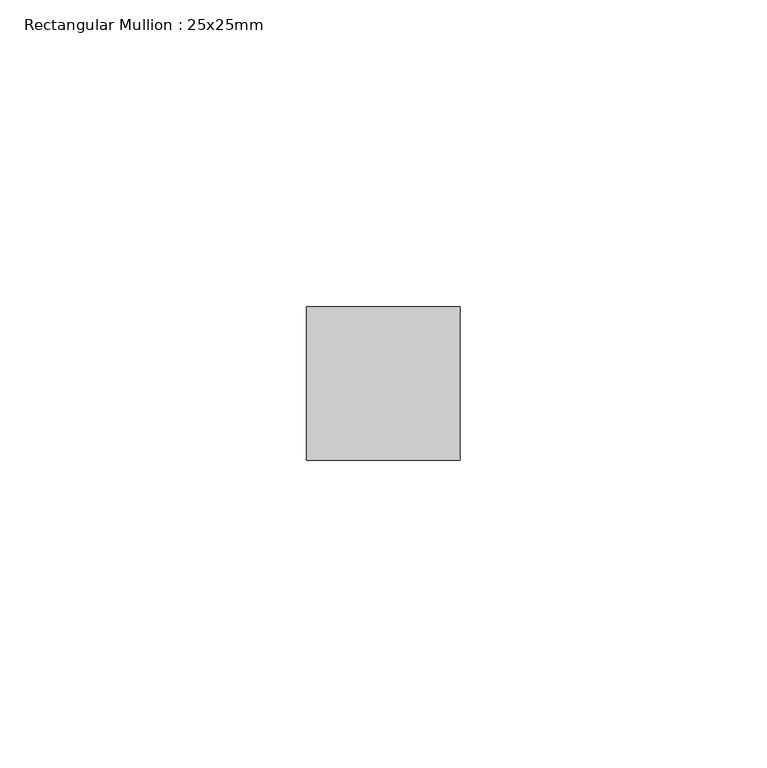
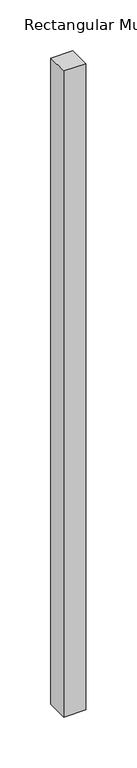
"""IFC4 building model written with IfcOpenShell, lengths in millimetres: member geometry, Rectangular Mullion : 25x25mm."""

from ifc_helpers import new_model, si_unit, frame, origin, place, context, project, spatial, polyline, outline, extrude, source, transform, mapped, element, save


def rectangular_mullion_25x25mm_1daffa3c(model_context):
    return source(origin(), model_context, "Body", "SweptSolid", [
        extrude(outline(polyline([(0.0, 24.5), (0.0, -0.5), (-25.0, -0.5), (-25.0, 24.5), (0.0, 24.5)])), frame((0.0, 0.0, -775.0), z_axis=(0.0, 0.0, 1.0), x_axis=(1.0, 0.0, 0.0)), (0.0, 0.0, 1.0), 775.0),
    ])


if __name__ == "__main__":
    model = new_model("IFC4")
    model_context = context("Model", 3, world=origin())
    ifc_project = project(units=[si_unit("LENGTHUNIT", "METRE", prefix="MILLI")], contexts=[model_context])
    site = spatial("IfcSite", under=ifc_project)
    building = spatial("IfcBuilding", under=site)
    placement = place(None, origin())
    rectangular_mullion_25x25mm_shape = rectangular_mullion_25x25mm_1daffa3c(model_context)
    element("IfcMember", 1, ObjectType="Rectangular Mullion : 25x25mm", at=placement, inside=building, context=model_context, shape_type="MappedRepresentation", body=[
        mapped(rectangular_mullion_25x25mm_shape, transform((0.0, 0.0, 0.0), x_axis=(1.0, 0.0, 0.0), y_axis=(0.0, 1.0, 0.0), z_axis=(0.0, 0.0, 1.0))),
    ])
    save(model, "model.ifc")
